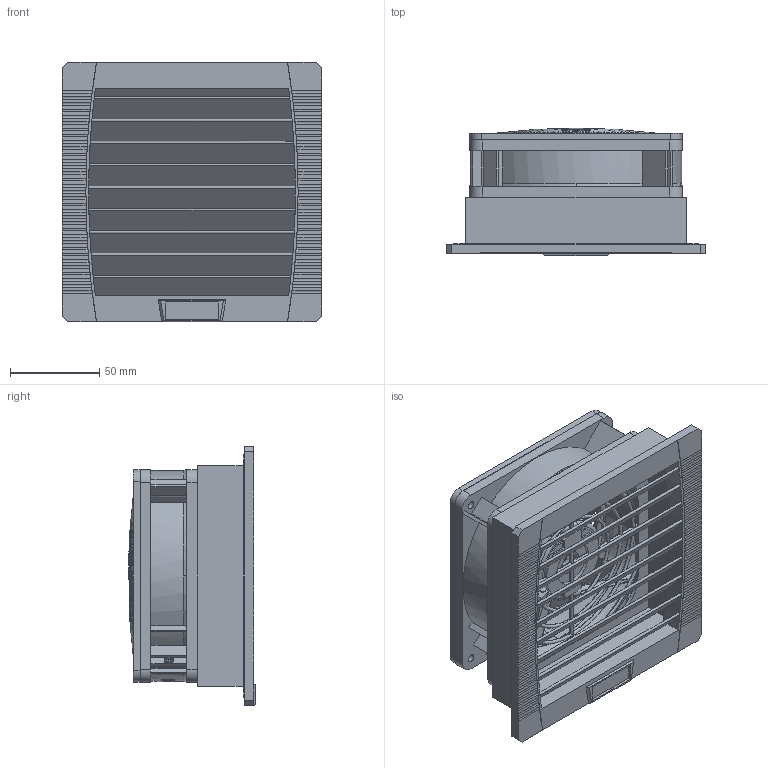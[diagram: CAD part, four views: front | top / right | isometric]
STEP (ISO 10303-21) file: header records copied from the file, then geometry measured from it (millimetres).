
FILE_DESCRIPTION (( 'STEP AP203' ), '1' );
FILE_NAME ('EF200-24R5_V1.step', '2013-02-07T14:27:22', ( '' ), ( '' ), 'SwSTEP 2.0', 'SolidWorks 2011', '' );
FILE_SCHEMA (( 'CONFIG_CONTROL_DESIGN' ));
Products named in the file (5): Fan Serie 4300N DC_Standard; EF200-24R5_V1; housing PF2x_Standard; cover PF2x_Standard; safty guard PF2x_PF3x_Standard
Assembly tree (4 placements, depth 2):
  EF200-24R5_V1
    safty guard PF2x_PF3x_Standard
    housing PF2x_Standard
    Fan Serie 4300N DC_Standard
    cover PF2x_Standard
Bounding box: 145 x 70.95 x 145 mm (x, y, z)
Volume: 204717.5 mm3; surface area: 229016.1 mm2
Topology: 5 solids, 5 shells, 2199 faces, 6290 edges, 4094 vertices
Faces by surface type: plane 1447, cylinder 527, bspline 132, torus 61, cone 31, sphere 1
Entity records: 92957 total; most frequent: CARTESIAN_POINT 38905, ORIENTED_EDGE 12560, DIRECTION 9075, EDGE_CURVE 6280, VERTEX_POINT 4093, LINE 3443, VECTOR 3443, AXIS2_PLACEMENT_3D 2816
